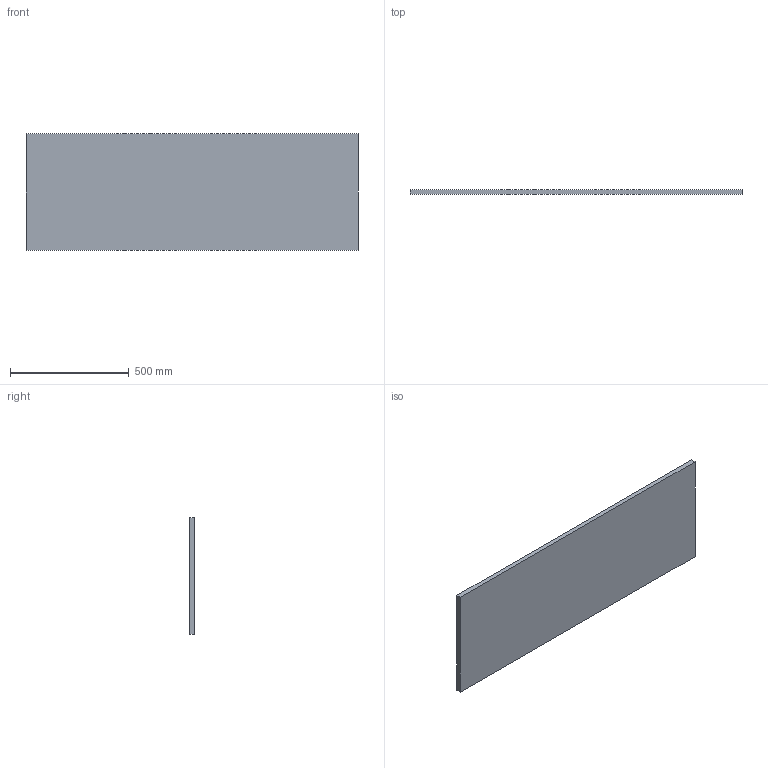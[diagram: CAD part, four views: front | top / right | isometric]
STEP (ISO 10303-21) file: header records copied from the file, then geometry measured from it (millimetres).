
FILE_DESCRIPTION (( 'STEP AP203' ), '1' );
FILE_NAME ('SMM140490000.STEP', '2019-09-04T07:38:31', ( '' ), ( '' ), 'SwSTEP 2.0', 'SolidWorks 2019', '' );
FILE_SCHEMA (( 'CONFIG_CONTROL_DESIGN' ));
Length unit declared in the file: millimetre
Products named in the file (1): SMM140490000
Bounding box: 1400 x 20 x 490 mm (x, y, z)
Volume: 13720000 mm3; surface area: 1447600 mm2
Topology: 1 solids, 1 shells, 6 faces, 12 edges, 8 vertices
Faces by surface type: plane 6
Entity records: 233 total; most frequent: CARTESIAN_POINT 27, DIRECTION 26, ORIENTED_EDGE 24, EDGE_CURVE 12, LINE 12, VECTOR 12, PERSON_AND_ORGANIZATION 8, VERTEX_POINT 8
